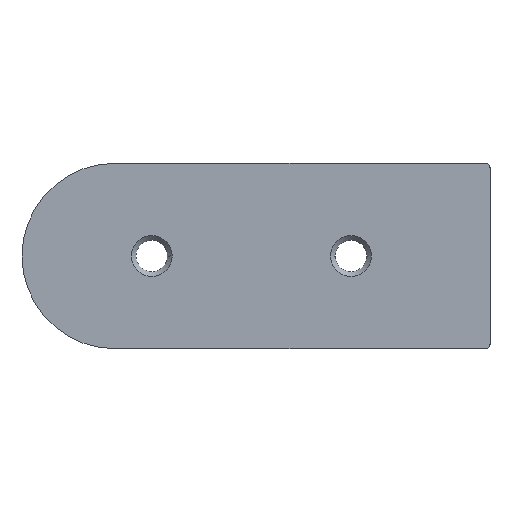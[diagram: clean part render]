
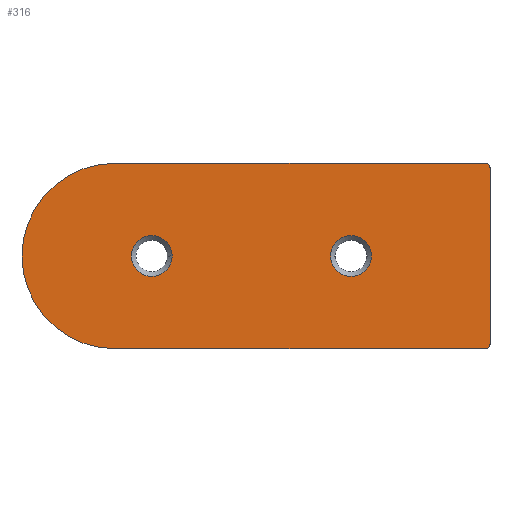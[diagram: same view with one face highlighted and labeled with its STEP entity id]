
A CAD part, top view. The second image highlights one B-rep face of the part: STEP entity #316.
In plain terms, the highlighted planar face has unit normal (0, 0, 1).
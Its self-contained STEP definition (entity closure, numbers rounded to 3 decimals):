
#72=CARTESIAN_POINT('',(-30.5,0.,0.5));
#73=DIRECTION('',(0.,0.,1.));
#74=DIRECTION('',(0.,1.,0.));
#75=AXIS2_PLACEMENT_3D('',#72,#73,#74);
#77=DIRECTION('',(-1.,0.,0.));
#78=VECTOR('',#77,80.);
#79=CARTESIAN_POINT('',(49.5,20.,0.5));
#80=LINE('',#79,#78);
#81=CARTESIAN_POINT('',(49.5,19.,0.5));
#82=DIRECTION('',(0.,0.,1.));
#83=DIRECTION('',(1.,0.,0.));
#84=AXIS2_PLACEMENT_3D('',#81,#82,#83);
#86=DIRECTION('',(0.,1.,0.));
#87=VECTOR('',#86,38.);
#88=CARTESIAN_POINT('',(50.5,-19.,0.5));
#89=LINE('',#88,#87);
#90=CARTESIAN_POINT('',(49.5,-19.,0.5));
#91=DIRECTION('',(0.,0.,1.));
#92=DIRECTION('',(0.,-1.,0.));
#93=AXIS2_PLACEMENT_3D('',#90,#91,#92);
#95=DIRECTION('',(1.,0.,0.));
#96=VECTOR('',#95,80.);
#97=CARTESIAN_POINT('',(-30.5,-20.,0.5));
#98=LINE('',#97,#96);
#99=CARTESIAN_POINT('',(20.5,0.,0.5));
#100=DIRECTION('',(0.,0.,1.));
#101=DIRECTION('',(-1.,0.,0.));
#102=AXIS2_PLACEMENT_3D('',#99,#100,#101);
#104=CARTESIAN_POINT('',(20.5,0.,0.5));
#105=DIRECTION('',(0.,0.,1.));
#106=DIRECTION('',(1.,0.,0.));
#107=AXIS2_PLACEMENT_3D('',#104,#105,#106);
#109=CARTESIAN_POINT('',(-22.5,0.,0.5));
#110=DIRECTION('',(0.,0.,1.));
#111=DIRECTION('',(-1.,0.,0.));
#112=AXIS2_PLACEMENT_3D('',#109,#110,#111);
#114=CARTESIAN_POINT('',(-22.5,0.,0.5));
#115=DIRECTION('',(0.,0.,1.));
#116=DIRECTION('',(1.,0.,0.));
#117=AXIS2_PLACEMENT_3D('',#114,#115,#116);
#139=CARTESIAN_POINT('',(50.5,19.,0.5));
#140=VERTEX_POINT('',#139);
#141=CARTESIAN_POINT('',(49.5,20.,0.5));
#142=VERTEX_POINT('',#141);
#147=CARTESIAN_POINT('',(49.5,-20.,0.5));
#148=VERTEX_POINT('',#147);
#149=CARTESIAN_POINT('',(50.5,-19.,0.5));
#150=VERTEX_POINT('',#149);
#155=CARTESIAN_POINT('',(-30.5,20.,0.5));
#156=VERTEX_POINT('',#155);
#157=CARTESIAN_POINT('',(-30.5,-20.,0.5));
#158=VERTEX_POINT('',#157);
#163=CARTESIAN_POINT('',(16.1,0.,0.5));
#164=CARTESIAN_POINT('',(24.9,0.,0.5));
#165=VERTEX_POINT('',#163);
#166=VERTEX_POINT('',#164);
#168=CARTESIAN_POINT('',(-26.9,0.,0.5));
#170=VERTEX_POINT('',#168);
#172=CARTESIAN_POINT('',(-18.1,0.,0.5));
#174=VERTEX_POINT('',#172);
#291=CARTESIAN_POINT('',(0.,0.,0.5));
#292=DIRECTION('',(0.,0.,1.));
#293=DIRECTION('',(1.,0.,0.));
#294=AXIS2_PLACEMENT_3D('',#291,#292,#293);
#295=PLANE('',#294);
#296=ORIENTED_EDGE('',*,*,#215,.F.);
#297=ORIENTED_EDGE('',*,*,#231,.F.);
#298=ORIENTED_EDGE('',*,*,#244,.F.);
#299=ORIENTED_EDGE('',*,*,#259,.F.);
#300=ORIENTED_EDGE('',*,*,#272,.F.);
#301=ORIENTED_EDGE('',*,*,#285,.F.);
#302=EDGE_LOOP('',(#296,#297,#298,#299,#300,#301));
#303=FACE_OUTER_BOUND('',#302,.F.);
#305=ORIENTED_EDGE('',*,*,#304,.T.);
#307=ORIENTED_EDGE('',*,*,#306,.T.);
#308=EDGE_LOOP('',(#305,#307));
#309=FACE_BOUND('',#308,.F.);
#311=ORIENTED_EDGE('',*,*,#310,.T.);
#313=ORIENTED_EDGE('',*,*,#312,.T.);
#314=EDGE_LOOP('',(#311,#313));
#315=FACE_BOUND('',#314,.F.);
#76=CIRCLE('',#75,20.);
#85=CIRCLE('',#84,1.);
#94=CIRCLE('',#93,1.);
#103=CIRCLE('',#102,4.4);
#108=CIRCLE('',#107,4.4);
#113=CIRCLE('',#112,4.4);
#118=CIRCLE('',#117,4.4);
#215=EDGE_CURVE('',#156,#158,#76,.T.);
#231=EDGE_CURVE('',#142,#156,#80,.T.);
#244=EDGE_CURVE('',#140,#142,#85,.T.);
#259=EDGE_CURVE('',#150,#140,#89,.T.);
#272=EDGE_CURVE('',#148,#150,#94,.T.);
#285=EDGE_CURVE('',#158,#148,#98,.T.);
#304=EDGE_CURVE('',#165,#166,#103,.T.);
#306=EDGE_CURVE('',#166,#165,#108,.T.);
#310=EDGE_CURVE('',#170,#174,#113,.T.);
#312=EDGE_CURVE('',#174,#170,#118,.T.);
#316=ADVANCED_FACE('',(#303,#309,#315),#295,.T.);
